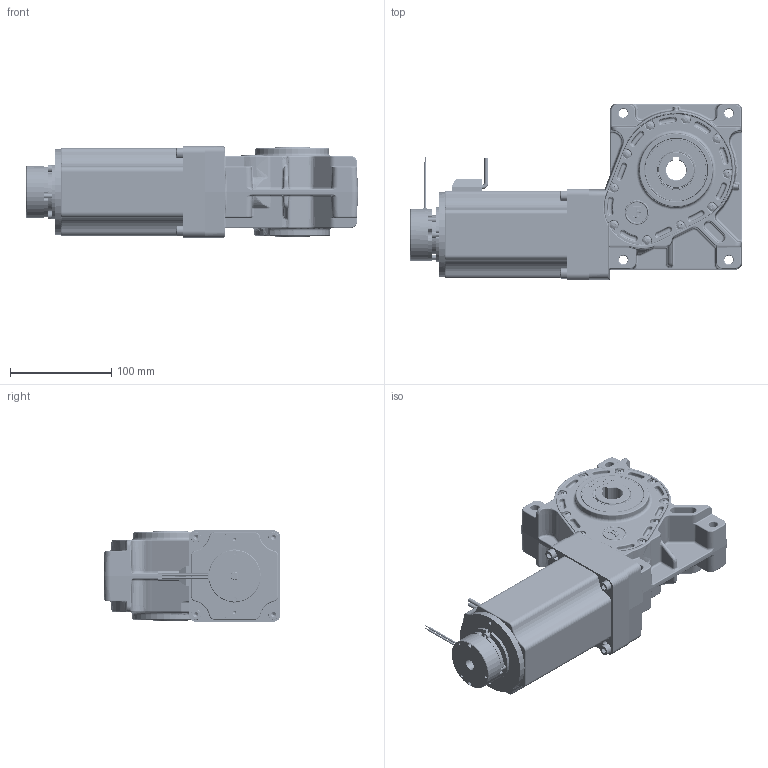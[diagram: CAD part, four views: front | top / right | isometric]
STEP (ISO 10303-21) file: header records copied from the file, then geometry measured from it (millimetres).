
FILE_DESCRIPTION (( 'STEP AP214' ), '1' );
FILE_NAME ('PBL86-80-GB65 - Brake.STEP', '2024-09-16T11:02:01', ( '' ), ( '' ), 'SwSTEP 2.0', 'SolidWorks 2023', '' );
FILE_SCHEMA (( 'AUTOMOTIVE_DESIGN' ));
Length unit declared in the file: millimetre
Products named in the file (1): PBL86-80-GB65 - Brake
Bounding box: 327.19 x 174.1 x 90 mm (x, y, z)
Surface area: 401528.1 mm2 (no closed solid volume)
Topology: 0 solids, 72 shells, 5532 faces, 13880 edges, 8447 vertices
Faces by surface type: cylinder 1750, bspline 1199, plane 1141, torus 708, cone 574, sphere 160
Entity records: 286024 total; most frequent: CARTESIAN_POINT 100845, ORIENTED_EDGE 27170, DIRECTION 24737, EDGE_CURVE 13587, AXIS2_PLACEMENT_3D 10128, VERTEX_POINT 8427, EDGE_LOOP 5869, CIRCLE 5794
